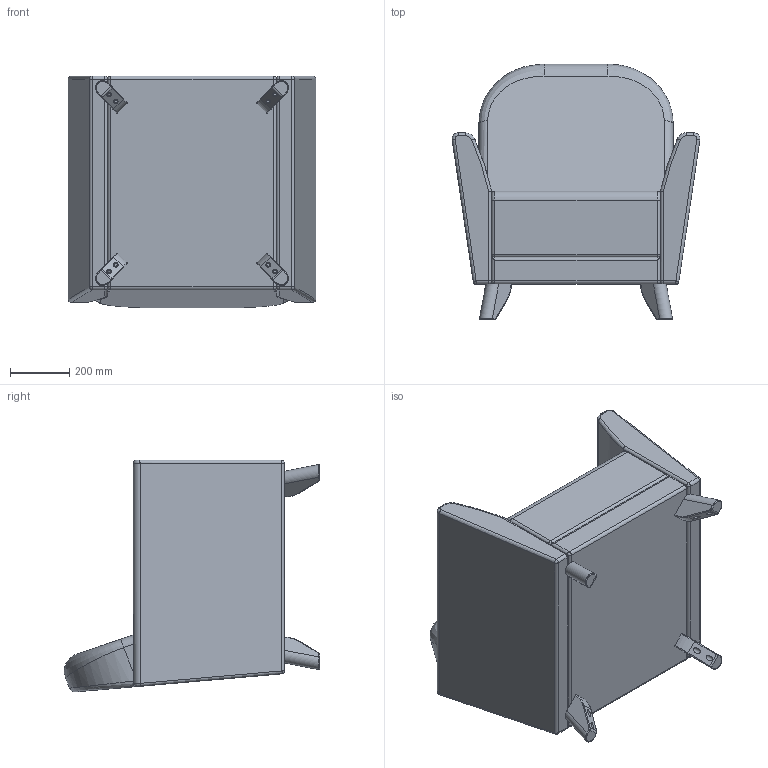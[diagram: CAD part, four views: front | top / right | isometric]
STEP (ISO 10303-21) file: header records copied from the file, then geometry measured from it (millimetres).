
FILE_DESCRIPTION(/* description */ ('ARMCHAIR'),/* implementation_level */ '2;1');
FILE_NAME(/* name */ 'Henley Armchair - STEP (Simplified).stp',/* time_stamp */ '2026-05-13T11:02:33+03:00',/* author */ ('Brian.Thangei'),/* organization */ (''),/* preprocessor_version */ 'ST-DEVELOPER v20',/* originating_system */ 'Autodesk Inventor 2025',/* authorisation */ '');
FILE_SCHEMA (('AUTOMOTIVE_DESIGN { 1 0 10303 214 3 1 1 }'));
Length unit declared in the file: millimetre
Products named in the file (1): Henley Armchair_2-Tone (Simplified)
Bounding box: 836.62 x 863.05 x 782.89 mm (x, y, z)
Volume: 237022814.8 mm3; surface area: 5410612 mm2
Topology: 9 solids, 9 shells, 217 faces, 494 edges, 289 vertices
Faces by surface type: cylinder 84, plane 61, bspline 40, torus 18, sphere 14
Full cylindrical faces by diameter (mm): 10 x8, 16 x8
Entity records: 13838 total; most frequent: CARTESIAN_POINT 9183, ORIENTED_EDGE 960, DIRECTION 931, EDGE_CURVE 480, AXIS2_PLACEMENT_3D 370, VERTEX_POINT 289, EDGE_LOOP 241, FACE_OUTER_BOUND 217
